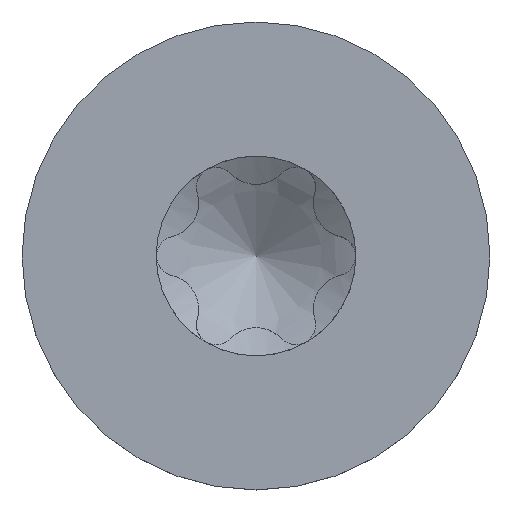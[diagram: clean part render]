
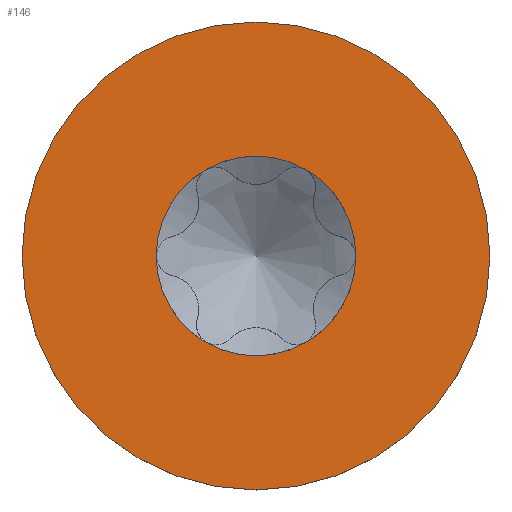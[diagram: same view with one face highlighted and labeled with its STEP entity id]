
A CAD part, top view. The second image highlights one B-rep face of the part: STEP entity #146.
In plain terms, the highlighted planar face has unit normal (0, 0, 1).
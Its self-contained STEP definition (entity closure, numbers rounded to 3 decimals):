
#100=PLANE('',#677);
#128=FACE_BOUND('',#226,.T.);
#129=FACE_BOUND('',#227,.T.);
#146=ADVANCED_FACE('',(#128,#129),#100,.T.);
#226=EDGE_LOOP('',(#309));
#227=EDGE_LOOP('',(#310));
#270=CIRCLE('',#674,4.65);
#271=CIRCLE('',#676,1.985);
#309=ORIENTED_EDGE('',*,*,#544,.T.);
#310=ORIENTED_EDGE('',*,*,#543,.F.);
#478=VERTEX_POINT('',#1307);
#479=VERTEX_POINT('',#1310);
#543=EDGE_CURVE('',#478,#478,#270,.T.);
#544=EDGE_CURVE('',#479,#479,#271,.T.);
#674=AXIS2_PLACEMENT_3D('',#1306,#728,#729);
#676=AXIS2_PLACEMENT_3D('',#1309,#732,#733);
#677=AXIS2_PLACEMENT_3D('',#1311,#734,#735);
#728=DIRECTION('',(0.,0.,-1.));
#729=DIRECTION('',(0.,1.,0.));
#732=DIRECTION('',(0.,0.,-1.));
#733=DIRECTION('',(0.,-1.,0.));
#734=DIRECTION('',(0.,0.,1.));
#735=DIRECTION('',(0.,-1.,0.));
#1306=CARTESIAN_POINT('',(0.,0.,3.705));
#1307=CARTESIAN_POINT('',(0.,4.65,3.705));
#1309=CARTESIAN_POINT('',(0.,0.,3.705));
#1310=CARTESIAN_POINT('',(0.,-1.985,3.705));
#1311=CARTESIAN_POINT('',(0.,4.65,3.705));
